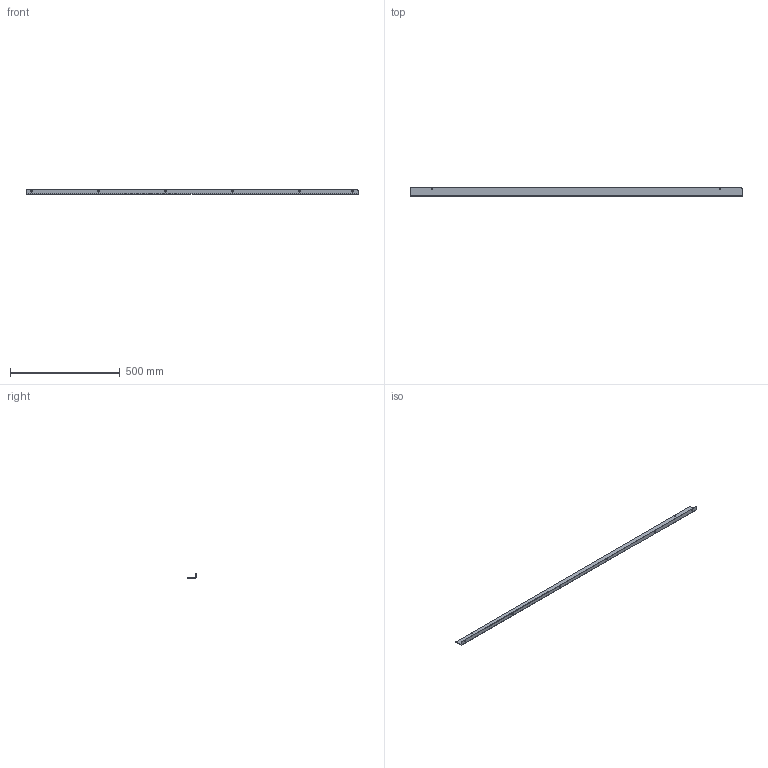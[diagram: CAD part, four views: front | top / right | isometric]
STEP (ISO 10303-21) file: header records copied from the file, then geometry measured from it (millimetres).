
FILE_DESCRIPTION((''),'2;1');
FILE_NAME('C:\Vault_Workspace\Inventor_Dwg\Inv-1\1100BA\WEBSITE\1100BA2060.stp','2015-02-02T15:07:08',('MichaelA'),(''),'Autodesk Inventor 2012','Autodesk Inventor 2012','');
FILE_SCHEMA(('AUTOMOTIVE_DESIGN { 1 0 10303 214 1 1 1 1 }'));
Length unit declared in the file: inch
Products named in the file (1): 1100BA-MASTER
Bounding box: 1511.3 x 38.1 x 19.05 mm (x, y, z)
Volume: 115972.2 mm3; surface area: 170626.8 mm2
Topology: 1 solids, 1 shells, 26 faces, 64 edges, 40 vertices
Faces by surface type: cylinder 14, plane 12
Full cylindrical faces by diameter (mm): 4.496 x2, 7.137 x6
Entity records: 792 total; most frequent: DIRECTION 138, CARTESIAN_POINT 123, ORIENTED_EDGE 112, EDGE_CURVE 56, AXIS2_PLACEMENT_3D 55, EDGE_LOOP 50, VERTEX_POINT 40, CIRCLE 28
